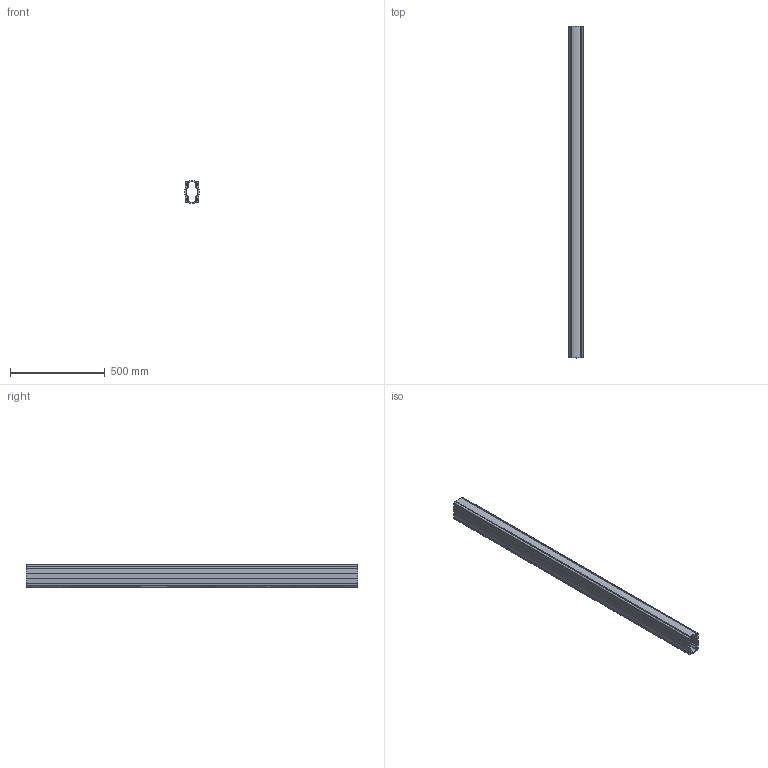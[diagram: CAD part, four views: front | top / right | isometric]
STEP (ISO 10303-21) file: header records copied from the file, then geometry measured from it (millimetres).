
FILE_DESCRIPTION (( 'STEP AP203' ), '1' );
FILE_NAME ('ETR120175.STEP', '2017-06-22T12:34:48', ( '' ), ( '' ), 'SwSTEP 2.0', 'SolidWorks 2017', '' );
FILE_SCHEMA (( 'CONFIG_CONTROL_DESIGN' ));
Length unit declared in the file: millimetre
Products named in the file (1): ETR120175
Bounding box: 74.95 x 1750 x 119.85 mm (x, y, z)
Volume: 4998413.5 mm3; surface area: 1380021.2 mm2
Topology: 1 solids, 1 shells, 102 faces, 300 edges, 200 vertices
Faces by surface type: cylinder 84, plane 17, bspline 1
Entity records: 3626 total; most frequent: DIRECTION 670, CARTESIAN_POINT 650, ORIENTED_EDGE 600, EDGE_CURVE 300, AXIS2_PLACEMENT_3D 270, VERTEX_POINT 200, CIRCLE 168, VECTOR 130
